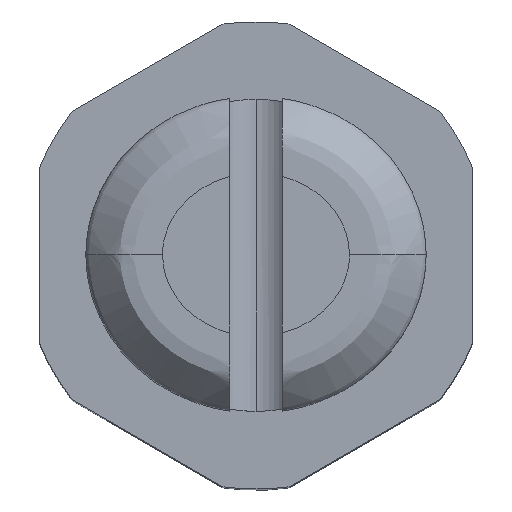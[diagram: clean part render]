
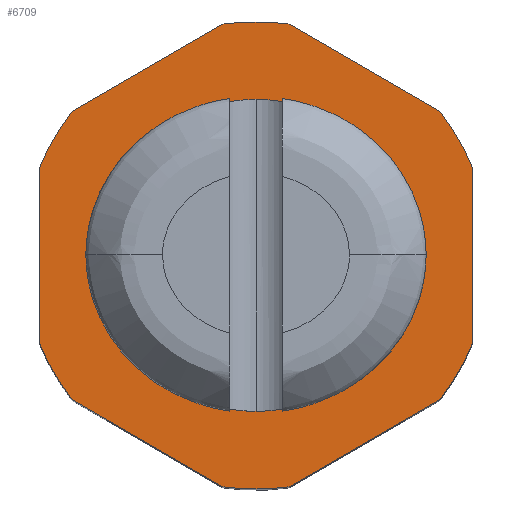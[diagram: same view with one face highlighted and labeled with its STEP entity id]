
A CAD part, top view. The second image highlights one B-rep face of the part: STEP entity #6709.
In plain terms, the highlighted planar face has unit normal (0, 0, 1).
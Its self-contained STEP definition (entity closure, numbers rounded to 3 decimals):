
#22 = CIRCLE ( 'NONE', #1519, 3.125 ) ;
#123 = VERTEX_POINT ( 'NONE', #4314 ) ;
#415 = EDGE_CURVE ( 'NONE', #7657, #4109, #1273, .T. ) ;
#518 = VERTEX_POINT ( 'NONE', #11466 ) ;
#628 = ORIENTED_EDGE ( 'NONE', *, *, #3826, .F. ) ;
#651 = LINE ( 'NONE', #3479, #5155 ) ;
#661 = VECTOR ( 'NONE', #5121, 1000. ) ;
#746 = DIRECTION ( 'NONE',  ( -1., 0., 0. ) ) ;
#934 = DIRECTION ( 'NONE',  ( -1., 0., 0. ) ) ;
#958 = EDGE_LOOP ( 'NONE', ( #10624, #7150, #11913, #6209 ) ) ;
#988 = LINE ( 'NONE', #3876, #2368 ) ;
#1029 = VERTEX_POINT ( 'NONE', #13092 ) ;
#1181 = CARTESIAN_POINT ( 'NONE',  ( -0.442, 3.094, 0.889 ) ) ;
#1273 = CIRCLE ( 'NONE', #11782, 3.125 ) ;
#1331 = FACE_OUTER_BOUND ( 'NONE', #7845, .T. ) ;
#1519 = AXIS2_PLACEMENT_3D ( 'NONE', #11637, #2336, #10425 ) ;
#1549 = ORIENTED_EDGE ( 'NONE', *, *, #11269, .F. ) ;
#1599 = LINE ( 'NONE', #5613, #5382 ) ;
#1874 = CARTESIAN_POINT ( 'NONE',  ( 0., 0., 0.889 ) ) ;
#1960 = AXIS2_PLACEMENT_3D ( 'NONE', #5754, #10904, #7957 ) ;
#1998 = EDGE_CURVE ( 'NONE', #8931, #123, #7475, .T. ) ;
#2323 = CARTESIAN_POINT ( 'NONE',  ( 2.065, -0.288, 0.889 ) ) ;
#2336 = DIRECTION ( 'NONE',  ( 0., 0., -1. ) ) ;
#2368 = VECTOR ( 'NONE', #9898, 1000. ) ;
#2404 = ORIENTED_EDGE ( 'NONE', *, *, #1998, .F. ) ;
#2406 = PLANE ( 'NONE',  #5370 ) ;
#2605 = CARTESIAN_POINT ( 'NONE',  ( 0.442, -3.094, 0.889 ) ) ;
#2723 = CARTESIAN_POINT ( 'NONE',  ( 0., 0., 0.889 ) ) ;
#2892 = VERTEX_POINT ( 'NONE', #4561 ) ;
#2903 = ORIENTED_EDGE ( 'NONE', *, *, #3161, .F. ) ;
#3117 = ORIENTED_EDGE ( 'NONE', *, *, #3962, .F. ) ;
#3151 = ORIENTED_EDGE ( 'NONE', *, *, #12377, .F. ) ;
#3161 = EDGE_CURVE ( 'NONE', #5614, #2892, #988, .T. ) ;
#3172 = CARTESIAN_POINT ( 'NONE',  ( 2.458, 1.929, 0.889 ) ) ;
#3259 = VERTEX_POINT ( 'NONE', #6071 ) ;
#3395 = ORIENTED_EDGE ( 'NONE', *, *, #6700, .F. ) ;
#3409 = VERTEX_POINT ( 'NONE', #5005 ) ;
#3479 = CARTESIAN_POINT ( 'NONE',  ( -2.458, -1.929, 0.889 ) ) ;
#3482 = LINE ( 'NONE', #6549, #9851 ) ;
#3549 = CARTESIAN_POINT ( 'NONE',  ( 0., 0., 0.889 ) ) ;
#3592 = ORIENTED_EDGE ( 'NONE', *, *, #8282, .F. ) ;
#3714 = CARTESIAN_POINT ( 'NONE',  ( 0., 0., 0.889 ) ) ;
#3826 = EDGE_CURVE ( 'NONE', #123, #7598, #6542, .T. ) ;
#3876 = CARTESIAN_POINT ( 'NONE',  ( -2.9, 1.164, 0.889 ) ) ;
#3962 = EDGE_CURVE ( 'NONE', #4109, #8931, #6738, .T. ) ;
#4091 = DIRECTION ( 'NONE',  ( 0., 0., -1. ) ) ;
#4109 = VERTEX_POINT ( 'NONE', #11774 ) ;
#4314 = CARTESIAN_POINT ( 'NONE',  ( 2.458, -1.929, 0.889 ) ) ;
#4505 = VECTOR ( 'NONE', #6609, 1000. ) ;
#4534 = CIRCLE ( 'NONE', #1960, 2.085 ) ;
#4561 = CARTESIAN_POINT ( 'NONE',  ( -2.9, 1.164, 0.889 ) ) ;
#4615 = DIRECTION ( 'NONE',  ( 0., 1., 0. ) ) ;
#4731 = CARTESIAN_POINT ( 'NONE',  ( 0., 0., 0.889 ) ) ;
#4820 = AXIS2_PLACEMENT_3D ( 'NONE', #2723, #7926, #6793 ) ;
#5005 = CARTESIAN_POINT ( 'NONE',  ( -0.442, -3.094, 0.889 ) ) ;
#5121 = DIRECTION ( 'NONE',  ( 0., 1., 0. ) ) ;
#5122 = AXIS2_PLACEMENT_3D ( 'NONE', #1874, #4091, #934 ) ;
#5147 = CARTESIAN_POINT ( 'NONE',  ( 0., 0., 0.889 ) ) ;
#5155 = VECTOR ( 'NONE', #12912, 1000. ) ;
#5370 = AXIS2_PLACEMENT_3D ( 'NONE', #3549, #9700, #6410 ) ;
#5382 = VECTOR ( 'NONE', #4615, 1000. ) ;
#5441 = DIRECTION ( 'NONE',  ( -1., 0., 0. ) ) ;
#5613 = CARTESIAN_POINT ( 'NONE',  ( -2.065, 2.086, 0.889 ) ) ;
#5614 = VERTEX_POINT ( 'NONE', #12304 ) ;
#5754 = CARTESIAN_POINT ( 'NONE',  ( 0., 0., 0.889 ) ) ;
#5772 = DIRECTION ( 'NONE',  ( 0., 0., -1. ) ) ;
#6071 = CARTESIAN_POINT ( 'NONE',  ( 2.065, 0.288, 0.889 ) ) ;
#6121 = LINE ( 'NONE', #11141, #661 ) ;
#6209 = ORIENTED_EDGE ( 'NONE', *, *, #10873, .F. ) ;
#6238 = CIRCLE ( 'NONE', #10088, 2.085 ) ;
#6410 = DIRECTION ( 'NONE',  ( -1., 0., 0. ) ) ;
#6474 = DIRECTION ( 'NONE',  ( -1., 0., 0. ) ) ;
#6476 = EDGE_CURVE ( 'NONE', #11622, #3259, #6121, .T. ) ;
#6542 = LINE ( 'NONE', #2605, #4505 ) ;
#6549 = CARTESIAN_POINT ( 'NONE',  ( 2.458, 1.929, 0.889 ) ) ;
#6609 = DIRECTION ( 'NONE',  ( -0.866, -0.5, 0. ) ) ;
#6657 = EDGE_CURVE ( 'NONE', #7598, #3409, #22, .T. ) ;
#6700 = EDGE_CURVE ( 'NONE', #9963, #7657, #3482, .T. ) ;
#6709 = ADVANCED_FACE ( 'NONE', ( #1331, #9571 ), #2406, .F. ) ;
#6738 = LINE ( 'NONE', #11630, #9195 ) ;
#6778 = VERTEX_POINT ( 'NONE', #10397 ) ;
#6793 = DIRECTION ( 'NONE',  ( -1., 0., 0. ) ) ;
#6854 = DIRECTION ( 'NONE',  ( 0., 0., 1. ) ) ;
#6973 = EDGE_CURVE ( 'NONE', #2892, #12002, #10706, .T. ) ;
#7150 = ORIENTED_EDGE ( 'NONE', *, *, #11898, .F. ) ;
#7168 = CIRCLE ( 'NONE', #4820, 3.125 ) ;
#7475 = CIRCLE ( 'NONE', #5122, 3.125 ) ;
#7518 = AXIS2_PLACEMENT_3D ( 'NONE', #5147, #11568, #6474 ) ;
#7598 = VERTEX_POINT ( 'NONE', #12194 ) ;
#7657 = VERTEX_POINT ( 'NONE', #3172 ) ;
#7845 = EDGE_LOOP ( 'NONE', ( #3117, #13209, #3395, #10296, #1549, #9268, #2903, #3151, #3592, #9342, #628, #2404 ) ) ;
#7926 = DIRECTION ( 'NONE',  ( 0., 0., -1. ) ) ;
#7957 = DIRECTION ( 'NONE',  ( 1., 0., 0. ) ) ;
#8030 = EDGE_CURVE ( 'NONE', #1029, #9963, #10926, .T. ) ;
#8282 = EDGE_CURVE ( 'NONE', #3409, #6778, #651, .T. ) ;
#8386 = DIRECTION ( 'NONE',  ( 0., 0., -1. ) ) ;
#8392 = EDGE_CURVE ( 'NONE', #518, #9191, #1599, .T. ) ;
#8410 = CARTESIAN_POINT ( 'NONE',  ( 2.9, -1.164, 0.889 ) ) ;
#8612 = CARTESIAN_POINT ( 'NONE',  ( -2.065, 0.288, 0.889 ) ) ;
#8931 = VERTEX_POINT ( 'NONE', #8410 ) ;
#8991 = AXIS2_PLACEMENT_3D ( 'NONE', #3714, #5772, #746 ) ;
#9191 = VERTEX_POINT ( 'NONE', #8612 ) ;
#9195 = VECTOR ( 'NONE', #12841, 1000. ) ;
#9268 = ORIENTED_EDGE ( 'NONE', *, *, #6973, .F. ) ;
#9342 = ORIENTED_EDGE ( 'NONE', *, *, #6657, .F. ) ;
#9464 = CARTESIAN_POINT ( 'NONE',  ( 0., 0., 0.889 ) ) ;
#9571 = FACE_BOUND ( 'NONE', #958, .T. ) ;
#9700 = DIRECTION ( 'NONE',  ( 0., 0., -1. ) ) ;
#9851 = VECTOR ( 'NONE', #12715, 1000. ) ;
#9898 = DIRECTION ( 'NONE',  ( 0., 1., 0. ) ) ;
#9963 = VERTEX_POINT ( 'NONE', #11771 ) ;
#10088 = AXIS2_PLACEMENT_3D ( 'NONE', #4731, #6854, #10753 ) ;
#10296 = ORIENTED_EDGE ( 'NONE', *, *, #8030, .F. ) ;
#10397 = CARTESIAN_POINT ( 'NONE',  ( -2.458, -1.929, 0.889 ) ) ;
#10425 = DIRECTION ( 'NONE',  ( -1., 0., 0. ) ) ;
#10624 = ORIENTED_EDGE ( 'NONE', *, *, #8392, .T. ) ;
#10706 = CIRCLE ( 'NONE', #8991, 3.125 ) ;
#10753 = DIRECTION ( 'NONE',  ( 1., 0., 0. ) ) ;
#10873 = EDGE_CURVE ( 'NONE', #518, #11622, #4534, .T. ) ;
#10904 = DIRECTION ( 'NONE',  ( 0., 0., 1. ) ) ;
#10926 = CIRCLE ( 'NONE', #7518, 3.125 ) ;
#11141 = CARTESIAN_POINT ( 'NONE',  ( 2.065, 2.086, 0.889 ) ) ;
#11269 = EDGE_CURVE ( 'NONE', #12002, #1029, #11357, .T. ) ;
#11357 = LINE ( 'NONE', #1181, #12648 ) ;
#11466 = CARTESIAN_POINT ( 'NONE',  ( -2.065, -0.288, 0.889 ) ) ;
#11568 = DIRECTION ( 'NONE',  ( 0., 0., -1. ) ) ;
#11622 = VERTEX_POINT ( 'NONE', #2323 ) ;
#11630 = CARTESIAN_POINT ( 'NONE',  ( 2.9, -1.164, 0.889 ) ) ;
#11637 = CARTESIAN_POINT ( 'NONE',  ( 0., 0., 0.889 ) ) ;
#11771 = CARTESIAN_POINT ( 'NONE',  ( 0.442, 3.094, 0.889 ) ) ;
#11774 = CARTESIAN_POINT ( 'NONE',  ( 2.9, 1.164, 0.889 ) ) ;
#11782 = AXIS2_PLACEMENT_3D ( 'NONE', #9464, #8386, #5441 ) ;
#11898 = EDGE_CURVE ( 'NONE', #3259, #9191, #6238, .T. ) ;
#11913 = ORIENTED_EDGE ( 'NONE', *, *, #6476, .F. ) ;
#12002 = VERTEX_POINT ( 'NONE', #12958 ) ;
#12093 = DIRECTION ( 'NONE',  ( 0.866, 0.5, 0. ) ) ;
#12194 = CARTESIAN_POINT ( 'NONE',  ( 0.442, -3.094, 0.889 ) ) ;
#12304 = CARTESIAN_POINT ( 'NONE',  ( -2.9, -1.164, 0.889 ) ) ;
#12377 = EDGE_CURVE ( 'NONE', #6778, #5614, #7168, .T. ) ;
#12648 = VECTOR ( 'NONE', #12093, 1000. ) ;
#12715 = DIRECTION ( 'NONE',  ( 0.866, -0.5, 0. ) ) ;
#12841 = DIRECTION ( 'NONE',  ( 0., -1., 0. ) ) ;
#12912 = DIRECTION ( 'NONE',  ( -0.866, 0.5, 0. ) ) ;
#12958 = CARTESIAN_POINT ( 'NONE',  ( -2.458, 1.929, 0.889 ) ) ;
#13092 = CARTESIAN_POINT ( 'NONE',  ( -0.442, 3.094, 0.889 ) ) ;
#13209 = ORIENTED_EDGE ( 'NONE', *, *, #415, .F. ) ;
